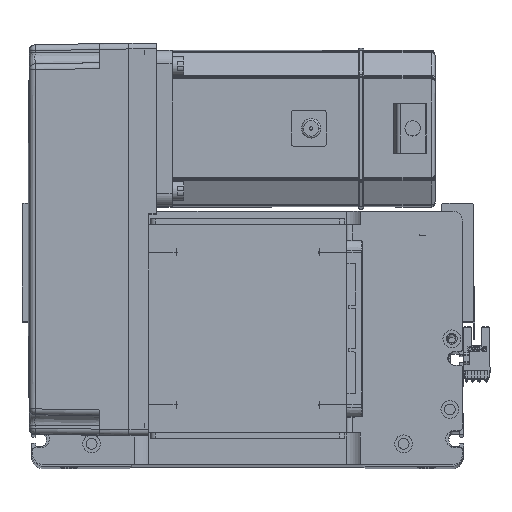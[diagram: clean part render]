
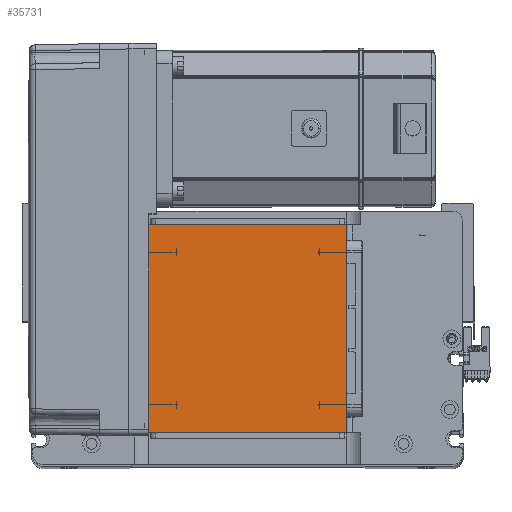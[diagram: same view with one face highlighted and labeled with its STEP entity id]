
A CAD part, top view. The second image highlights one B-rep face of the part: STEP entity #35731.
In plain terms, the highlighted planar face has unit normal (0, 0, 1).
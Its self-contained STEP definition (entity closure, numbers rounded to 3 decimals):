
#800 = VERTEX_POINT ( 'NONE', #45600 ) ;
#7323 = DIRECTION ( 'NONE',  ( 0., 0., 1. ) ) ;
#7538 = EDGE_CURVE ( 'NONE', #800, #23001, #25102, .T. ) ;
#8218 = CARTESIAN_POINT ( 'NONE',  ( 50.5, 122., 115. ) ) ;
#9167 = DIRECTION ( 'NONE',  ( -1., 0., 0. ) ) ;
#11690 = CARTESIAN_POINT ( 'NONE',  ( -50.5, 16., 115. ) ) ;
#12086 = DIRECTION ( 'NONE',  ( 0., 1., 0. ) ) ;
#13038 = DIRECTION ( 'NONE',  ( 1., 0., 0. ) ) ;
#14725 = CARTESIAN_POINT ( 'NONE',  ( 0., 0., 115. ) ) ;
#15855 = CARTESIAN_POINT ( 'NONE',  ( 50.5, 122., 115. ) ) ;
#18660 = VERTEX_POINT ( 'NONE', #8218 ) ;
#20376 = ORIENTED_EDGE ( 'NONE', *, *, #35473, .T. ) ;
#22399 = PLANE ( 'NONE',  #49830 ) ;
#23001 = VERTEX_POINT ( 'NONE', #11690 ) ;
#23381 = VECTOR ( 'NONE', #13038, 1000. ) ;
#24723 = ORIENTED_EDGE ( 'NONE', *, *, #7538, .T. ) ;
#24912 = EDGE_CURVE ( 'NONE', #39784, #18660, #35686, .T. ) ;
#25102 = LINE ( 'NONE', #48169, #37162 ) ;
#26045 = LINE ( 'NONE', #28672, #45611 ) ;
#28672 = CARTESIAN_POINT ( 'NONE',  ( -50.5, 122., 115. ) ) ;
#31380 = VECTOR ( 'NONE', #12086, 1000. ) ;
#33811 = CARTESIAN_POINT ( 'NONE',  ( 50.5, 16., 115. ) ) ;
#34759 = ORIENTED_EDGE ( 'NONE', *, *, #24912, .T. ) ;
#35473 = EDGE_CURVE ( 'NONE', #23001, #39784, #41699, .T. ) ;
#35686 = LINE ( 'NONE', #15855, #31380 ) ;
#35731 = ADVANCED_FACE ( 'NONE', ( #38642 ), #22399, .T. ) ;
#37162 = VECTOR ( 'NONE', #48488, 1000. ) ;
#38117 = ORIENTED_EDGE ( 'NONE', *, *, #44815, .T. ) ;
#38642 = FACE_OUTER_BOUND ( 'NONE', #49126, .T. ) ;
#39784 = VERTEX_POINT ( 'NONE', #33811 ) ;
#41699 = LINE ( 'NONE', #48708, #23381 ) ;
#42032 = DIRECTION ( 'NONE',  ( 1., 0., 0. ) ) ;
#44815 = EDGE_CURVE ( 'NONE', #18660, #800, #26045, .T. ) ;
#45600 = CARTESIAN_POINT ( 'NONE',  ( -50.5, 122., 115. ) ) ;
#45611 = VECTOR ( 'NONE', #9167, 1000. ) ;
#48169 = CARTESIAN_POINT ( 'NONE',  ( -50.5, 122., 115. ) ) ;
#48488 = DIRECTION ( 'NONE',  ( 0., -1., 0. ) ) ;
#48708 = CARTESIAN_POINT ( 'NONE',  ( -50.5, 16., 115. ) ) ;
#49126 = EDGE_LOOP ( 'NONE', ( #24723, #20376, #34759, #38117 ) ) ;
#49830 = AXIS2_PLACEMENT_3D ( 'NONE', #14725, #7323, #42032 ) ;
